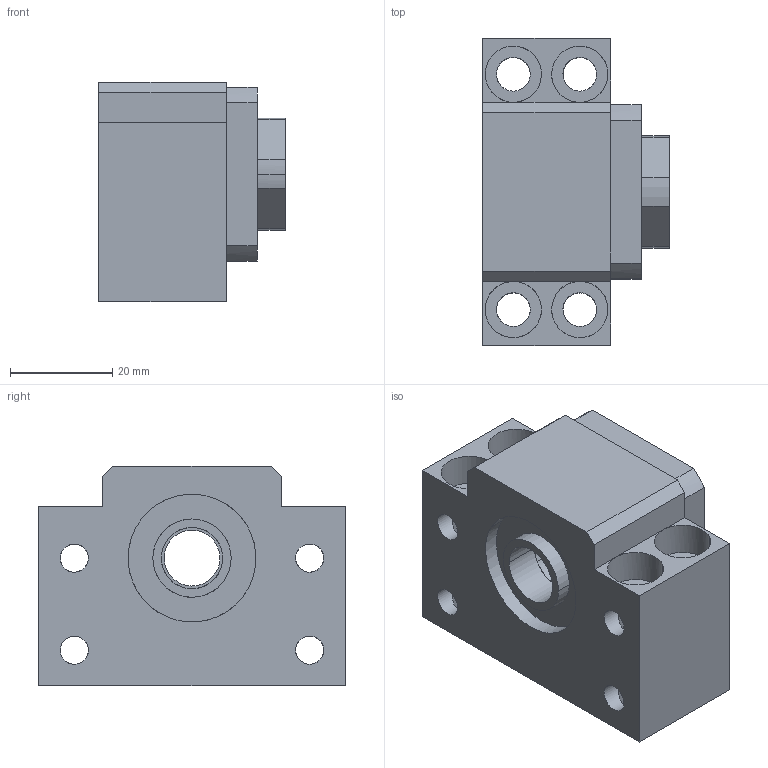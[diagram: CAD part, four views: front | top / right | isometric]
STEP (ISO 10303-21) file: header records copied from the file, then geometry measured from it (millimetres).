
FILE_DESCRIPTION(('CATIA V5 STEP Exchange'),'2;1');
FILE_NAME('D:\서포트 완성도면\BK\BK12.stp','2014-03-21T10:40:23+00:00',('none'),('none'),'CATIA Version 5 Release 18 GA (IN-10)','CATIA V5 STEP AP203','none');
FILE_SCHEMA(('CONFIG_CONTROL_DESIGN'));
Length unit declared in the file: millimetre
Products named in the file (1): BK12
Assembly tree (4 placements, depth 2):
  BK12
    #56
    #4397
    #4660
    #4923
Bounding box: 36.5 x 60 x 43 mm (x, y, z)
Volume: 55179.5 mm3; surface area: 17906.7 mm2
Topology: 4 solids, 4 shells, 105 faces, 322 edges, 213 vertices
Faces by surface type: cylinder 70, plane 35
Entity records: 5389 total; most frequent: CARTESIAN_POINT 2725, ORIENTED_EDGE 640, DIRECTION 346, EDGE_CURVE 320, VERTEX_POINT 212, B_SPLINE_CURVE_WITH_KNOTS 148, VECTOR 144, LINE 144
